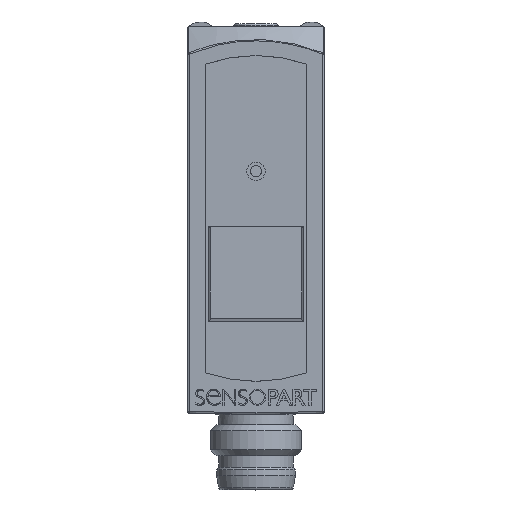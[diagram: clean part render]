
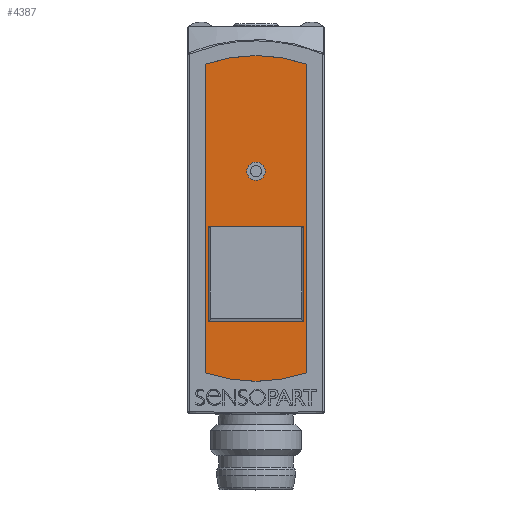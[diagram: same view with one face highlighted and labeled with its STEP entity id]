
A CAD part, top view. The second image highlights one B-rep face of the part: STEP entity #4387.
In plain terms, the highlighted planar face has unit normal (0, -0.018, 1).
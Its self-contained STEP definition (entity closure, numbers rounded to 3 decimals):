
#247=LINE('',#6405,#601);
#248=LINE('',#6409,#602);
#601=VECTOR('',#5144,10.);
#602=VECTOR('',#5147,10.);
#982=FACE_OUTER_BOUND('',#1253,.T.);
#1253=EDGE_LOOP('',(#2746,#2747,#2748,#2749));
#1549=CIRCLE('',#4685,13.65);
#1550=CIRCLE('',#4686,13.65);
#1740=VERTEX_POINT('',#6403);
#1741=VERTEX_POINT('',#6404);
#1742=VERTEX_POINT('',#6406);
#1743=VERTEX_POINT('',#6408);
#2122=EDGE_CURVE('',#1740,#1741,#247,.T.);
#2123=EDGE_CURVE('',#1742,#1741,#1549,.T.);
#2124=EDGE_CURVE('',#1742,#1743,#248,.T.);
#2125=EDGE_CURVE('',#1743,#1740,#1550,.T.);
#2746=ORIENTED_EDGE('',*,*,#2122,.T.);
#2747=ORIENTED_EDGE('',*,*,#2123,.F.);
#2748=ORIENTED_EDGE('',*,*,#2124,.T.);
#2749=ORIENTED_EDGE('',*,*,#2125,.T.);
#3993=PLANE('',#4684);
#4387=ADVANCED_FACE('',(#982),#3993,.F.);
#4684=AXIS2_PLACEMENT_3D('',#6402,#5142,#5143);
#4685=AXIS2_PLACEMENT_3D('',#6407,#5145,#5146);
#4686=AXIS2_PLACEMENT_3D('',#6410,#5148,#5149);
#5142=DIRECTION('center_axis',(0.,0.017,
-1.));
#5143=DIRECTION('ref_axis',(0.,-1.,-0.017));
#5144=DIRECTION('',(0.,-1.,-0.017));
#5145=DIRECTION('center_axis',(0.,0.017,
-1.));
#5146=DIRECTION('ref_axis',(-0.326,-0.945,-0.016));
#5147=DIRECTION('',(0.,1.,0.017));
#5148=DIRECTION('center_axis',(0.,-0.017,
1.));
#5149=DIRECTION('ref_axis',(0.326,0.945,0.016));
#6402=CARTESIAN_POINT('Origin',(0.,17.172,0.193));
#6403=CARTESIAN_POINT('',(-4.45,30.698,0.429));
#6404=CARTESIAN_POINT('',(-4.45,3.644,-0.043));
#6405=CARTESIAN_POINT('',(-4.45,23.936,0.311));
#6406=CARTESIAN_POINT('',(4.45,3.644,-0.043));
#6407=CARTESIAN_POINT('Origin',(0.,16.546,
0.182));
#6408=CARTESIAN_POINT('',(4.45,30.698,0.429));
#6409=CARTESIAN_POINT('',(4.45,10.408,0.075));
#6410=CARTESIAN_POINT('Origin',(0.,17.796,
0.204));
